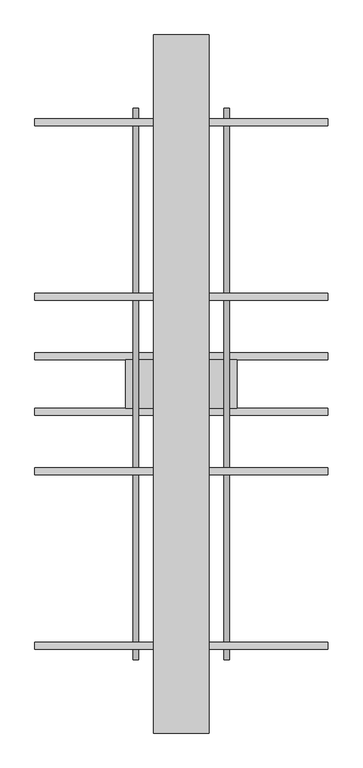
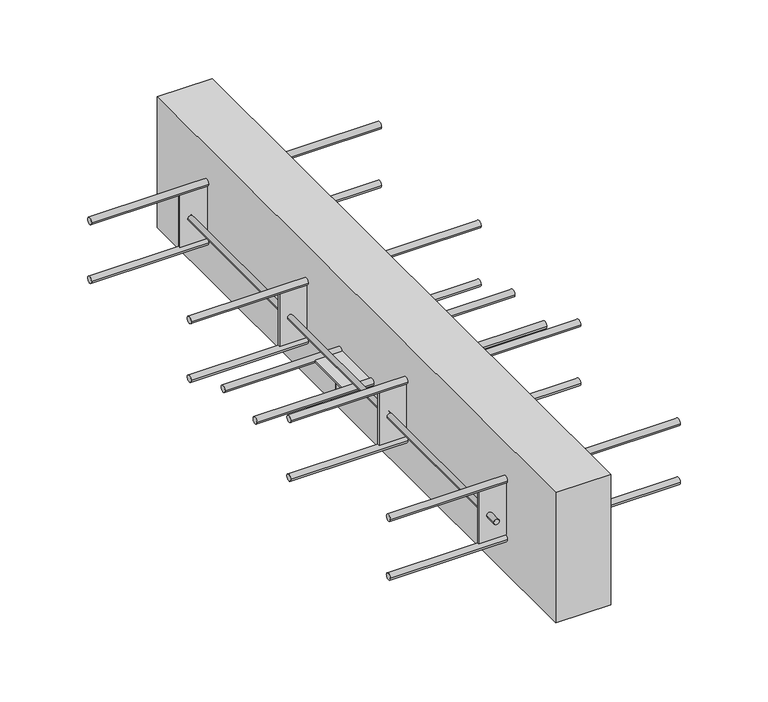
"""IFC4 building model written with IfcOpenShell, lengths in millimetres: fastener geometry, ACINOXplus_Typenreihe_Q : QC+ S1."""

from ifc_helpers import new_model, si_unit, point, frame, frame_2d, origin, place, context, project, spatial, polyline, circle_curve, trimmed, segment, composite_curve, outline, extrude, source, transform, mapped, element, save
from ifc_brep_helpers import plane_surface, cylinder_surface, advanced_brep


def fastener_919721ef(model_context):
    return source(origin(), model_context, "Body", "SolidModel", [
        extrude(outline(polyline([(40.0, 500.0), (40.0, -500.0), (-40.0, -500.0), (-40.0, 500.0), (40.0, 500.0)])), frame((0.0, 0.0, -200.0), z_axis=(0.0, 0.0, 1.0), x_axis=(1.0, 0.0, 0.0)), (0.0, 0.0, 1.0), 200.0),
        extrude(outline(composite_curve([segment(trimmed(circle_curve(frame_2d((-40.0, -109.0)), 5.0), [point((-45.0, -109.0))], [point((-35.0, -109.0))], False, "CARTESIAN"), True, "CONTINUOUS"), segment(trimmed(circle_curve(frame_2d((-40.0, -109.0)), 5.0), [point((-35.0, -109.0))], [point((-45.0, -109.0))], False, "CARTESIAN"), True, "CONTINUOUS")], self_intersect=False)), frame((-210.0, 0.0, 0.0), z_axis=(1.0, 0.0, 0.0), x_axis=(0.0, 1.0, 0.0)), (0.0, 0.0, 1.0), 420.0),
        extrude(outline(composite_curve([segment(trimmed(circle_curve(frame_2d((40.0, -109.0)), 5.0), [point((35.0, -109.0))], [point((45.0, -109.0))], False, "CARTESIAN"), True, "CONTINUOUS"), segment(trimmed(circle_curve(frame_2d((40.0, -109.0)), 5.0), [point((45.0, -109.0))], [point((35.0, -109.0))], False, "CARTESIAN"), True, "CONTINUOUS")], self_intersect=False)), frame((-210.0, 0.0, 0.0), z_axis=(1.0, 0.0, 0.0), x_axis=(0.0, 1.0, 0.0)), (0.0, 0.0, 1.0), 420.0),
        advanced_brep(
        [(-69.0, 0.0, -137.0), (-61.0, 0.0, -137.0), (61.0, 0.0, -137.0), (69.0, 0.0, -137.0), (-61.0, 0.0, -110.5), (-69.0, 0.0, -110.5), (69.0, 0.0, -110.5), (61.0, 0.0, -110.5), (80.0, 35.0, -107.5), (-80.0, 35.0, -107.5), (-80.0, -35.0, -107.5), (80.0, -35.0, -107.5), (80.0, 35.0, -110.5), (80.0, -35.0, -110.5), (-80.0, -35.0, -110.5), (-80.0, 35.0, -110.5)],
        [
            (0, 1, circle_curve(frame((-65.0, 0.0, -137.0), z_axis=(0.0, 0.0, -1.0), x_axis=(1.0, 0.0, 0.0)), 4.0)),
            (1, 0, circle_curve(frame((-65.0, 0.0, -137.0), z_axis=(0.0, 0.0, -1.0), x_axis=(1.0, 0.0, 0.0)), 4.0)),
            (2, 3, circle_curve(frame((65.0, 0.0, -137.0), z_axis=(0.0, 0.0, -1.0), x_axis=(1.0, 0.0, 0.0)), 4.0)),
            (3, 2, circle_curve(frame((65.0, 0.0, -137.0), z_axis=(0.0, 0.0, -1.0), x_axis=(1.0, 0.0, 0.0)), 4.0)),
            (1, 4),
            (4, 5, circle_curve(frame((-65.0, 0.0, -110.5), z_axis=(0.0, 0.0, -1.0), x_axis=(1.0, 0.0, 0.0)), 4.0)),
            (5, 0),
            (5, 4, circle_curve(frame((-65.0, 0.0, -110.5), z_axis=(0.0, 0.0, -1.0), x_axis=(1.0, 0.0, 0.0)), 4.0)),
            (3, 6),
            (6, 7, circle_curve(frame((65.0, 0.0, -110.5), z_axis=(0.0, 0.0, -1.0), x_axis=(1.0, 0.0, 0.0)), 4.0)),
            (7, 2),
            (7, 6, circle_curve(frame((65.0, 0.0, -110.5), z_axis=(0.0, 0.0, -1.0), x_axis=(1.0, 0.0, 0.0)), 4.0)),
            (8, 9),
            (9, 10),
            (10, 11),
            (11, 8),
            (12, 13),
            (13, 14),
            (14, 15),
            (15, 12),
            (8, 12),
            (15, 9),
            (14, 10),
            (13, 11),
        ],
        [
            plane_surface(frame((-61.0, 0.0, -137.0), z_axis=(0.0, 0.0, -1.0), x_axis=(0.0, -1.0, 0.0))),
            cylinder_surface(frame((-65.0, 0.0, -137.0), z_axis=(0.0, 0.0, 1.0), x_axis=(1.0, 0.0, 0.0)), 4.0),
            cylinder_surface(frame((65.0, 0.0, -109.0), z_axis=(0.0, 0.0, 1.0), x_axis=(1.0, 0.0, 0.0)), 4.0),
            plane_surface(frame((-80.0, 35.0, -107.5), z_axis=(0.0, 0.0, 1.0), x_axis=(-1.0, 0.0, 0.0))),
            plane_surface(frame((-80.0, 35.0, -110.5), z_axis=(0.0, 0.0, -1.0), x_axis=(1.0, 0.0, 0.0))),
            plane_surface(frame((80.0, 35.0, -107.5), z_axis=(0.0, 1.0, 0.0), x_axis=(0.0, 0.0, -1.0))),
            plane_surface(frame((-80.0, 35.0, -107.5), z_axis=(-1.0, 0.0, 0.0), x_axis=(0.0, 0.0, -1.0))),
            plane_surface(frame((-80.0, -35.0, -107.5), z_axis=(0.0, -1.0, 0.0), x_axis=(0.0, 0.0, -1.0))),
            plane_surface(frame((80.0, -35.0, -107.5), z_axis=(1.0, 0.0, 0.0), x_axis=(0.0, 0.0, -1.0))),
        ],
        [
            (0, [[1, 2]]),
            (0, [[3, 4]]),
            (1, [[-2, 5, 6, 7]]),
            (1, [[-1, -7, 8, -5]]),
            (2, [[-4, 9, 10, 11]]),
            (2, [[-3, -11, 12, -9]]),
            (3, [[13, 14, 15, 16]]),
            (4, [[17, 18, 19, 20], [-6, -8], [-10, -12]]),
            (5, [[-13, 21, -20, 22]]),
            (6, [[-14, -22, -19, 23]]),
            (7, [[-15, -23, -18, 24]]),
            (8, [[-16, -24, -17, -21]]),
        ],
    ),
        extrude(outline(polyline([(80.0, -123.5), (80.0, -126.5), (-80.0, -126.5), (-80.0, -123.5), (80.0, -123.5)])), frame((0.0, 0.0, -140.0), z_axis=(0.0, 0.0, 1.0), x_axis=(1.0, 0.0, 0.0)), (0.0, 0.0, 1.0), 80.0),
        extrude(outline(polyline([(80.0, 126.5), (80.0, 123.5), (-80.0, 123.5), (-80.0, 126.5), (80.0, 126.5)])), frame((0.0, 0.0, -140.0), z_axis=(0.0, 0.0, 1.0), x_axis=(1.0, 0.0, 0.0)), (0.0, 0.0, 1.0), 80.0),
        extrude(outline(polyline([(80.0, -373.5), (80.0, -376.5), (-80.0, -376.5), (-80.0, -373.5), (80.0, -373.5)])), frame((0.0, 0.0, -140.0), z_axis=(0.0, 0.0, 1.0), x_axis=(1.0, 0.0, 0.0)), (0.0, 0.0, 1.0), 80.0),
        extrude(outline(polyline([(80.0, 376.5), (80.0, 373.5), (-80.0, 373.5), (-80.0, 376.5), (80.0, 376.5)])), frame((0.0, 0.0, -140.0), z_axis=(0.0, 0.0, 1.0), x_axis=(1.0, 0.0, 0.0)), (0.0, 0.0, 1.0), 80.0),
        extrude(outline(composite_curve([segment(trimmed(circle_curve(frame_2d((-100.0, -65.0)), 4.0), [point((-100.0, -69.0))], [point((-100.0, -61.0))], False, "CARTESIAN"), True, "CONTINUOUS"), segment(trimmed(circle_curve(frame_2d((-100.0, -65.0)), 4.0), [point((-100.0, -61.0))], [point((-100.0, -69.0))], False, "CARTESIAN"), True, "CONTINUOUS")], self_intersect=False)), frame((0.0, -373.5, 0.0), z_axis=(0.0, 1.0, 0.0), x_axis=(0.0, 0.0, 1.0)), (0.0, 0.0, 1.0), 497.0),
        extrude(outline(composite_curve([segment(trimmed(circle_curve(frame_2d((-100.0, -65.0)), 4.0), [point((-100.0, -69.0))], [point((-100.0, -61.0))], False, "CARTESIAN"), True, "CONTINUOUS"), segment(trimmed(circle_curve(frame_2d((-100.0, -65.0)), 4.0), [point((-100.0, -61.0))], [point((-100.0, -69.0))], False, "CARTESIAN"), True, "CONTINUOUS")], self_intersect=False)), frame((0.0, 376.5, 0.0), z_axis=(0.0, 1.0, 0.0), x_axis=(0.0, 0.0, 1.0)), (0.0, 0.0, 1.0), 18.5),
        extrude(outline(composite_curve([segment(trimmed(circle_curve(frame_2d((-100.0, -65.0)), 4.0), [point((-100.0, -61.0))], [point((-100.0, -69.0))], False, "CARTESIAN"), True, "CONTINUOUS"), segment(trimmed(circle_curve(frame_2d((-100.0, -65.0)), 4.0), [point((-100.0, -69.0))], [point((-100.0, -61.0))], False, "CARTESIAN"), True, "CONTINUOUS")], self_intersect=False)), frame((0.0, -395.0, 0.0), z_axis=(0.0, 1.0, 0.0), x_axis=(0.0, 0.0, 1.0)), (0.0, 0.0, 1.0), 18.5),
        extrude(outline(composite_curve([segment(trimmed(circle_curve(frame_2d((-100.0, -65.0)), 4.0), [point((-100.0, -69.0))], [point((-100.0, -61.0))], False, "CARTESIAN"), True, "CONTINUOUS"), segment(trimmed(circle_curve(frame_2d((-100.0, -65.0)), 4.0), [point((-100.0, -61.0))], [point((-100.0, -69.0))], False, "CARTESIAN"), True, "CONTINUOUS")], self_intersect=False)), frame((0.0, 126.5, 0.0), z_axis=(0.0, 1.0, 0.0), x_axis=(0.0, 0.0, 1.0)), (0.0, 0.0, 1.0), 247.0),
        extrude(outline(composite_curve([segment(trimmed(circle_curve(frame_2d((-100.0, 65.0)), 4.0), [point((-100.0, 61.0))], [point((-100.0, 69.0))], False, "CARTESIAN"), True, "CONTINUOUS"), segment(trimmed(circle_curve(frame_2d((-100.0, 65.0)), 4.0), [point((-100.0, 69.0))], [point((-100.0, 61.0))], False, "CARTESIAN"), True, "CONTINUOUS")], self_intersect=False)), frame((0.0, -373.5, 0.0), z_axis=(0.0, 1.0, 0.0), x_axis=(0.0, 0.0, 1.0)), (0.0, 0.0, 1.0), 497.0),
        extrude(outline(composite_curve([segment(trimmed(circle_curve(frame_2d((-100.0, 65.0)), 4.0), [point((-100.0, 61.0))], [point((-100.0, 69.0))], False, "CARTESIAN"), True, "CONTINUOUS"), segment(trimmed(circle_curve(frame_2d((-100.0, 65.0)), 4.0), [point((-100.0, 69.0))], [point((-100.0, 61.0))], False, "CARTESIAN"), True, "CONTINUOUS")], self_intersect=False)), frame((0.0, 376.5, 0.0), z_axis=(0.0, 1.0, 0.0), x_axis=(0.0, 0.0, 1.0)), (0.0, 0.0, 1.0), 18.5),
        extrude(outline(composite_curve([segment(trimmed(circle_curve(frame_2d((-100.0, 65.0)), 4.0), [point((-100.0, 69.0))], [point((-100.0, 61.0))], False, "CARTESIAN"), True, "CONTINUOUS"), segment(trimmed(circle_curve(frame_2d((-100.0, 65.0)), 4.0), [point((-100.0, 61.0))], [point((-100.0, 69.0))], False, "CARTESIAN"), True, "CONTINUOUS")], self_intersect=False)), frame((0.0, -395.0, 0.0), z_axis=(0.0, 1.0, 0.0), x_axis=(0.0, 0.0, 1.0)), (0.0, 0.0, 1.0), 18.5),
        extrude(outline(composite_curve([segment(trimmed(circle_curve(frame_2d((-100.0, 65.0)), 4.0), [point((-100.0, 61.0))], [point((-100.0, 69.0))], False, "CARTESIAN"), True, "CONTINUOUS"), segment(trimmed(circle_curve(frame_2d((-100.0, 65.0)), 4.0), [point((-100.0, 69.0))], [point((-100.0, 61.0))], False, "CARTESIAN"), True, "CONTINUOUS")], self_intersect=False)), frame((0.0, 126.5, 0.0), z_axis=(0.0, 1.0, 0.0), x_axis=(0.0, 0.0, 1.0)), (0.0, 0.0, 1.0), 247.0),
        extrude(outline(composite_curve([segment(trimmed(circle_curve(frame_2d((125.0, -145.0)), 5.0), [point((120.0, -145.0))], [point((130.0, -145.0))], False, "CARTESIAN"), True, "CONTINUOUS"), segment(trimmed(circle_curve(frame_2d((125.0, -145.0)), 5.0), [point((130.0, -145.0))], [point((120.0, -145.0))], False, "CARTESIAN"), True, "CONTINUOUS")], self_intersect=False)), frame((-210.0, 0.0, 0.0), z_axis=(1.0, 0.0, 0.0), x_axis=(0.0, 1.0, 0.0)), (0.0, 0.0, 1.0), 420.0),
        extrude(outline(composite_curve([segment(trimmed(circle_curve(frame_2d((375.0, -145.0)), 5.0), [point((370.0, -145.0))], [point((380.0, -145.0))], False, "CARTESIAN"), True, "CONTINUOUS"), segment(trimmed(circle_curve(frame_2d((375.0, -145.0)), 5.0), [point((380.0, -145.0))], [point((370.0, -145.0))], False, "CARTESIAN"), True, "CONTINUOUS")], self_intersect=False)), frame((-210.0, 0.0, 0.0), z_axis=(1.0, 0.0, 0.0), x_axis=(0.0, 1.0, 0.0)), (0.0, 0.0, 1.0), 420.0),
        extrude(outline(composite_curve([segment(trimmed(circle_curve(frame_2d((-125.0, -145.0)), 5.0), [point((-130.0, -145.0))], [point((-120.0, -145.0))], False, "CARTESIAN"), True, "CONTINUOUS"), segment(trimmed(circle_curve(frame_2d((-125.0, -145.0)), 5.0), [point((-120.0, -145.0))], [point((-130.0, -145.0))], False, "CARTESIAN"), True, "CONTINUOUS")], self_intersect=False)), frame((-210.0, 0.0, 0.0), z_axis=(1.0, 0.0, 0.0), x_axis=(0.0, 1.0, 0.0)), (0.0, 0.0, 1.0), 420.0),
        extrude(outline(composite_curve([segment(trimmed(circle_curve(frame_2d((-375.0, -145.0)), 5.0), [point((-380.0, -145.0))], [point((-370.0, -145.0))], False, "CARTESIAN"), True, "CONTINUOUS"), segment(trimmed(circle_curve(frame_2d((-375.0, -145.0)), 5.0), [point((-370.0, -145.0))], [point((-380.0, -145.0))], False, "CARTESIAN"), True, "CONTINUOUS")], self_intersect=False)), frame((-210.0, 0.0, 0.0), z_axis=(1.0, 0.0, 0.0), x_axis=(0.0, 1.0, 0.0)), (0.0, 0.0, 1.0), 420.0),
        extrude(outline(composite_curve([segment(trimmed(circle_curve(frame_2d((125.0, -55.0)), 5.0), [point((120.0, -55.0))], [point((130.0, -55.0))], False, "CARTESIAN"), True, "CONTINUOUS"), segment(trimmed(circle_curve(frame_2d((125.0, -55.0)), 5.0), [point((130.0, -55.0))], [point((120.0, -55.0))], False, "CARTESIAN"), True, "CONTINUOUS")], self_intersect=False)), frame((-210.0, 0.0, 0.0), z_axis=(1.0, 0.0, 0.0), x_axis=(0.0, 1.0, 0.0)), (0.0, 0.0, 1.0), 420.0),
        extrude(outline(composite_curve([segment(trimmed(circle_curve(frame_2d((375.0, -55.0)), 5.0), [point((370.0, -55.0))], [point((380.0, -55.0))], False, "CARTESIAN"), True, "CONTINUOUS"), segment(trimmed(circle_curve(frame_2d((375.0, -55.0)), 5.0), [point((380.0, -55.0))], [point((370.0, -55.0))], False, "CARTESIAN"), True, "CONTINUOUS")], self_intersect=False)), frame((-210.0, 0.0, 0.0), z_axis=(1.0, 0.0, 0.0), x_axis=(0.0, 1.0, 0.0)), (0.0, 0.0, 1.0), 420.0),
        extrude(outline(composite_curve([segment(trimmed(circle_curve(frame_2d((-125.0, -55.0)), 5.0), [point((-130.0, -55.0))], [point((-120.0, -55.0))], False, "CARTESIAN"), True, "CONTINUOUS"), segment(trimmed(circle_curve(frame_2d((-125.0, -55.0)), 5.0), [point((-120.0, -55.0))], [point((-130.0, -55.0))], False, "CARTESIAN"), True, "CONTINUOUS")], self_intersect=False)), frame((-210.0, 0.0, 0.0), z_axis=(1.0, 0.0, 0.0), x_axis=(0.0, 1.0, 0.0)), (0.0, 0.0, 1.0), 420.0),
        extrude(outline(composite_curve([segment(trimmed(circle_curve(frame_2d((-375.0, -55.0)), 5.0), [point((-380.0, -55.0))], [point((-370.0, -55.0))], False, "CARTESIAN"), True, "CONTINUOUS"), segment(trimmed(circle_curve(frame_2d((-375.0, -55.0)), 5.0), [point((-370.0, -55.0))], [point((-380.0, -55.0))], False, "CARTESIAN"), True, "CONTINUOUS")], self_intersect=False)), frame((-210.0, 0.0, 0.0), z_axis=(1.0, 0.0, 0.0), x_axis=(0.0, 1.0, 0.0)), (0.0, 0.0, 1.0), 420.0),
    ])


if __name__ == "__main__":
    model = new_model("IFC4")
    model_context = context("Model", 3, world=origin())
    ifc_project = project(units=[si_unit("LENGTHUNIT", "METRE", prefix="MILLI")], contexts=[model_context])
    site = spatial("IfcSite", under=ifc_project)
    building = spatial("IfcBuilding", under=site)
    placement = place(None, origin())
    fastener_shape = fastener_919721ef(model_context)
    element("IfcFastener", 1, ObjectType="ACINOXplus_Typenreihe_Q : QC+ S1", at=placement, inside=building, context=model_context, shape_type="MappedRepresentation", body=[
        mapped(fastener_shape, transform((0.0, 0.0, 0.0), x_axis=(1.0, 0.0, 0.0), y_axis=(0.0, 1.0, 0.0), z_axis=(0.0, 0.0, 1.0))),
    ])
    save(model, "model.ifc")
